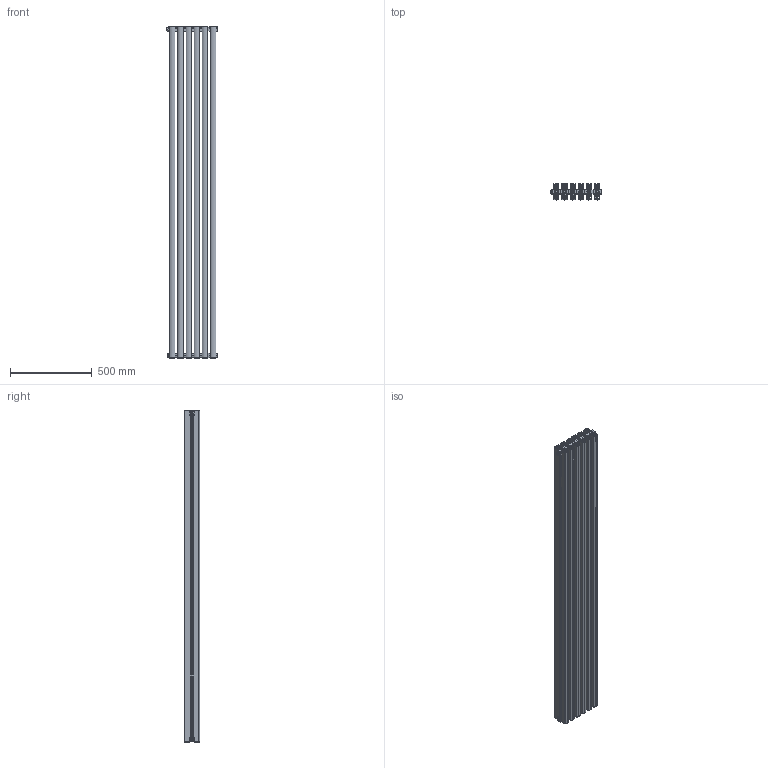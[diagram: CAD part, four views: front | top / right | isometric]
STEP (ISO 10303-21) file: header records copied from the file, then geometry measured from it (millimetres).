
FILE_DESCRIPTION (( 'STEP AP214' ), '1' );
FILE_NAME ('TONALE 2000_6.STEP', '2024-07-22T08:36:39', ( '' ), ( '' ), 'SwSTEP 2.0', 'SolidWorks 2024', '' );
FILE_SCHEMA (( 'AUTOMOTIVE_DESIGN' ));
Length unit declared in the file: millimetre
Products named in the file (12): TONALE 2000_6; P3EL00004A_6 elementi; P3EL00004A_6 elementi CS; Assieme vitone con o_ring; Art.041; Art.011; ETV600G_foro Ø 4; Coperchietto; EPC10022D_1000; P3EL00002A_2000; O-RING 2,4 D16,3
Assembly tree (35 placements, depth 3):
  TONALE 2000_6
    EPC10022D_1000  x6
    Art.011  x3
      Art.011
      Coperchietto
    Art.041
    P3EL00002A_2000  x6
    P3EL00004A_6 elementi CS
    Assieme vitone con o_ring  x12
      ETV600G_foro Ø 4
      O-RING 2,4 D16,3
    P3EL00004A_6 elementi
Bounding box: 316.3 x 95 x 2037 mm (x, y, z)
Volume: 7210521.2 mm3; surface area: 8829057.6 mm2
Topology: 60 solids, 60 shells, 3714 faces, 10205 edges, 6502 vertices
Faces by surface type: plane 1610, cylinder 1514, cone 338, torus 114, bspline 114, sphere 24
Entity records: 31491 total; most frequent: CARTESIAN_POINT 11226, ORIENTED_EDGE 4190, DIRECTION 4125, EDGE_CURVE 2095, AXIS2_PLACEMENT_3D 1448, VERTEX_POINT 1359, VECTOR 1229, LINE 1229
